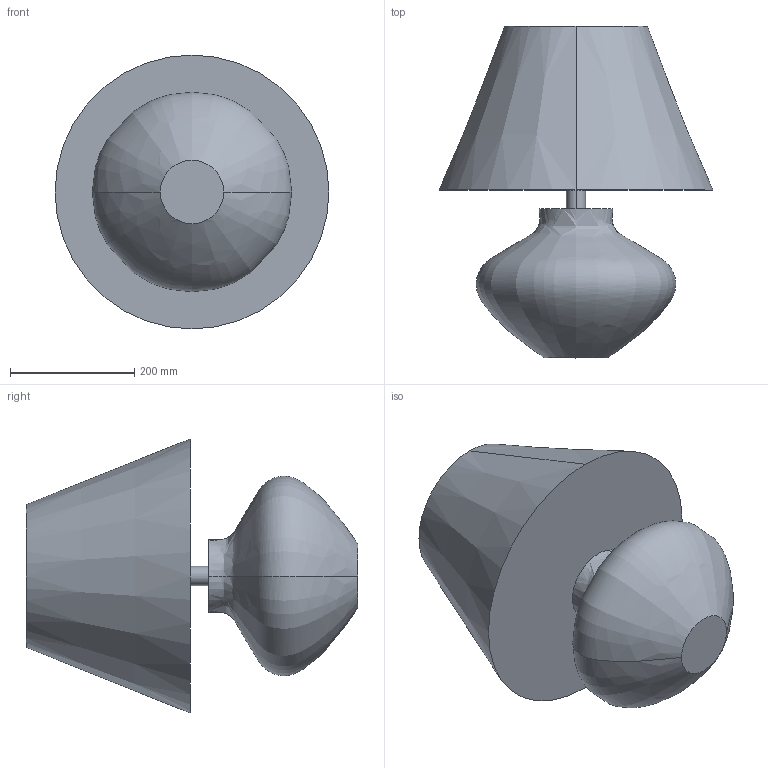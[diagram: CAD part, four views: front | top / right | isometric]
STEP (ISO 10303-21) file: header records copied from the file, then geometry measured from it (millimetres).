
FILE_DESCRIPTION (( 'STEP AP214' ), '1' );
FILE_NAME ('12.STEP', '2016-10-07T09:07:19', ( 'Tripiodiy' ), ( '' ), 'SwSTEP 2.0', 'SolidWorks 2016', '' );
FILE_SCHEMA (( 'AUTOMOTIVE_DESIGN' ));
Length unit declared in the file: millimetre
Products named in the file (1): 12
Bounding box: 440.44 x 533.71 x 440.44 mm (x, y, z)
Volume: 6585984 mm3; surface area: 1324799.9 mm2
Topology: 1 solids, 1 shells, 20 faces, 38 edges, 24 vertices
Faces by surface type: cone 6, plane 6, bspline 4, cylinder 4
Entity records: 1726 total; most frequent: CARTESIAN_POINT 1285, DIRECTION 92, ORIENTED_EDGE 76, AXIS2_PLACEMENT_3D 41, EDGE_CURVE 38, VERTEX_POINT 24, EDGE_LOOP 24, CIRCLE 24
